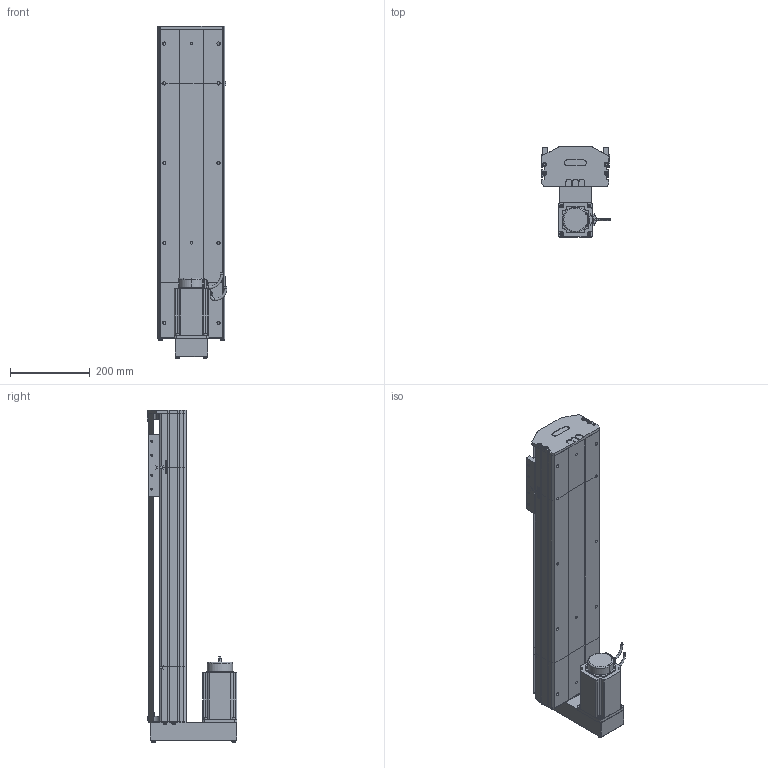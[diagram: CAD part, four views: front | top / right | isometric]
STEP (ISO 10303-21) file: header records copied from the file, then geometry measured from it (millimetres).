
FILE_DESCRIPTION (( 'STEP AP214' ), '1' );
FILE_NAME ('D17 TSH BM S500.STEP', '2010-06-29T14:50:45', ( 'Christophe Gaillard' ), ( 'SGA' ), 'SwSTEP 2.0', 'SolidWorks 2010', '' );
FILE_SCHEMA (( 'AUTOMOTIVE_DESIGN' ));
Length unit declared in the file: millimetre
Products named in the file (33): vis M5 L12_Default; guide D17; Conecteur2_Default; chariot D17S_Default; Vis M5 L16-2_Default; renvoi Bm_Default; Chariot D17; Cvis M5 L70_Default; Conecteur_Default; Tail D17+L100_Default; couvercle D17 course L500_Default; D17 TSH BM S500; corp D17 500_Default; arbre + rail D17 Course 500 ; course 500 D17_Default; Arbre+rail tail D17; codeur 90BLDC125-640; Moteur motionking 90BLDC125A-640; vis M5 L5_Default; Arbre+rail head D17; plaque de  bout BM head D17_Default; tete d''axe haut D17; corps 90BLDC125A-640; avant 90BLDC125A-640; vis M5 L8 90°_Default; corpl tail D17+L100_Default; tete d''axe bas D17; corpl head D17 BM_Default; vis M5 L25_Default; couvercle D17_Default; couvercle D17 head_Default; plaque de  bout tail D17_Default; head BM_Default
Assembly tree (55 placements, depth 4):
  D17 TSH BM S500
    course 500 D17_Default
      arbre + rail D17 Course 500 
      couvercle D17 course L500_Default
      corp D17 500_Default
    Tail D17+L100_Default
      corpl tail D17+L100_Default
      vis M5 L12_Default  x4
      Arbre+rail tail D17
      vis M5 L8 90°_Default  x2
      couvercle D17_Default
      plaque de  bout tail D17_Default
      vis M5 L25_Default  x2
      tete d''axe bas D17
      tete d''axe haut D17
    head BM_Default
      renvoi Bm_Default
      vis M5 L12_Default  x8
      Moteur motionking 90BLDC125A-640
        Conecteur_Default
        codeur 90BLDC125-640
        avant 90BLDC125A-640
        corps 90BLDC125A-640
        Conecteur2_Default
      Vis M5 L16-2_Default  x4
      plaque de  bout BM head D17_Default
      Cvis M5 L70_Default  x2
      corpl head D17 BM_Default
      Arbre+rail head D17
      vis M5 L5_Default  x2
      couvercle D17 head_Default
    chariot D17S_Default
      vis M5 L12_Default  x4
      Chariot D17
      guide D17  x2
Bounding box: 174.95 x 225.7 x 832.7 mm (x, y, z)
Volume: 6176569.7 mm3; surface area: 1525249 mm2
Topology: 80 solids, 80 shells, 2237 faces, 5605 edges, 3616 vertices
Faces by surface type: plane 1400, cylinder 560, bspline 136, torus 73, cone 64, sphere 4
Entity records: 72147 total; most frequent: CARTESIAN_POINT 22566, ORIENTED_EDGE 8718, DIRECTION 8164, EDGE_CURVE 4359, VECTOR 3044, LINE 3044, VERTEX_POINT 2862, AXIS2_PLACEMENT_3D 2560
